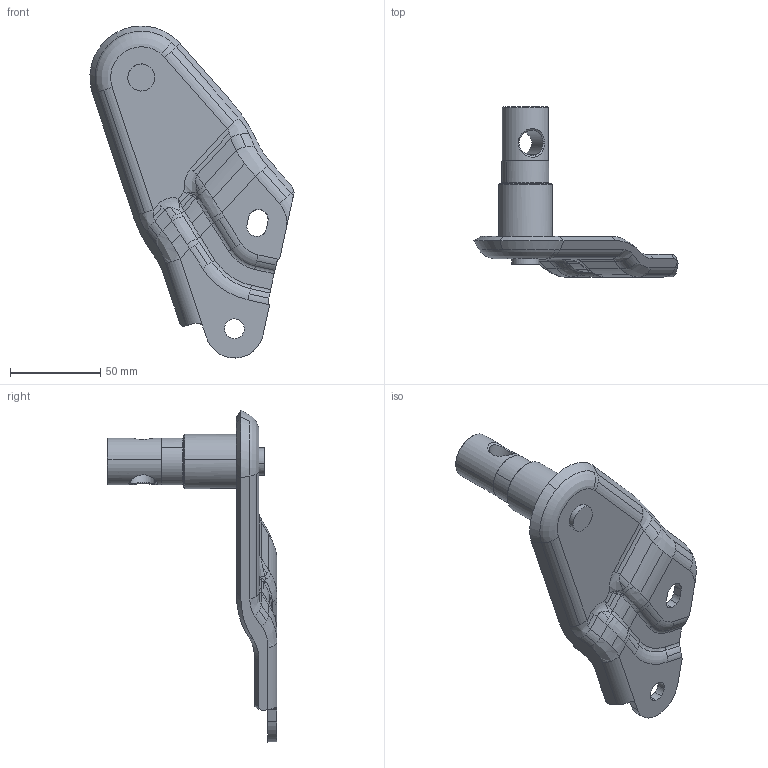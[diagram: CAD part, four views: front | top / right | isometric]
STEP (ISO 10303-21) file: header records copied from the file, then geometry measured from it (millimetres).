
FILE_DESCRIPTION(('CATIA V5 STEP Exchange'),'2;1');
FILE_NAME('D:\桌面文件\SHT0013142钣金件切除尾部干涉地方数据.stp','2024-10-23T09:15:20+00:00',('none'),('none'),'CATIA Version 5 Release 20 GA (IN-10)','CATIA V5 STEP AP214','none');
FILE_SCHEMA(('AUTOMOTIVE_DESIGN { 1 0 10303 214 1 1 1 1 }'));
Length unit declared in the file: millimetre
Products named in the file (3): SHT0013142; SHT0013257; SHT0013140
Assembly tree (2 placements, depth 2):
  SHT0013142
    SHT0013257
    SHT0013140
Bounding box: 113.03 x 94.1 x 183.92 mm (x, y, z)
Volume: 108689.5 mm3; surface area: 37418.8 mm2
Topology: 2 solids, 2 shells, 250 faces, 628 edges, 383 vertices
Faces by surface type: cylinder 105, bspline 54, plane 41, torus 18, cone 17, extrusion 15
Entity records: 12978 total; most frequent: CARTESIAN_POINT 7798, ORIENTED_EDGE 1252, DIRECTION 688, EDGE_CURVE 626, VERTEX_POINT 383, B_SPLINE_CURVE_WITH_KNOTS 320, AXIS2_PLACEMENT_3D 294, EDGE_LOOP 261
